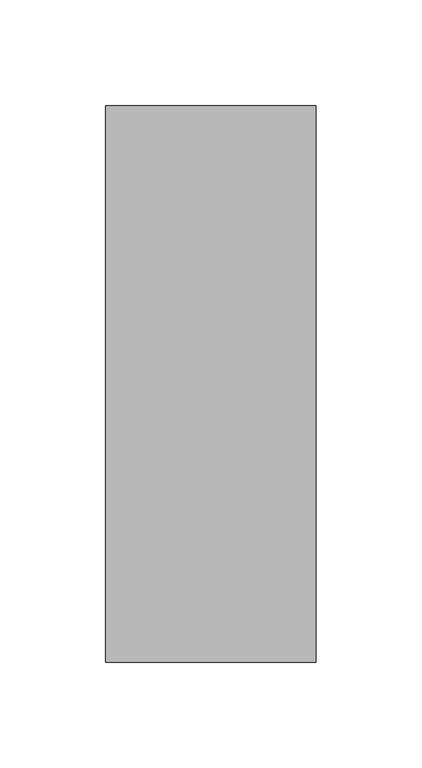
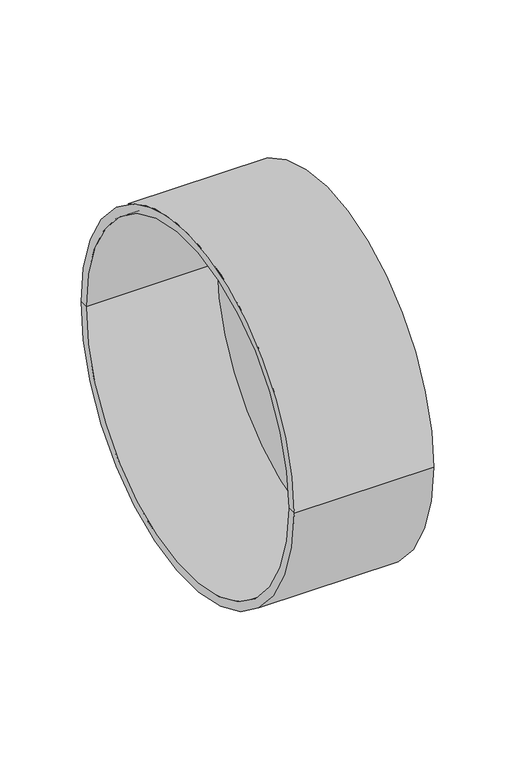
"""IFC4 building model written with IfcOpenShell, lengths in millimetres: pipe fitting geometry, pf_KGK_vicko : pf_KGK_vicko."""

from ifc_helpers import new_model, si_unit, frame, origin, place, context, project, spatial, polyline, circle_curve, source, transform, mapped, element, save
from ifc_brep_helpers import plane_surface, cylinder_surface, revolved_surface, advanced_brep


def pipe_fitting_46e281f1(model_context):
    return source(origin(), model_context, "Body", "AdvancedBrep", [
        advanced_brep(
        [(-93.0, -131.2, 0.0), (-93.0, 131.2, 0.0), (6.2, 131.2, 0.0), (6.2, -131.2, 0.0), (-93.0, -125.0, 0.0), (-93.0, 125.0, 0.0), (0.0, -125.0, 0.0), (0.0, 125.0, 0.0), (0.0, 0.0, 0.0), (6.2, 0.0, 0.0)],
        [
            (0, 1, circle_curve(frame((-93.0, 0.0, 0.0), z_axis=(1.0, 0.0, 0.0), x_axis=(0.0, 1.0, 0.0)), 131.2)),
            (1, 2),
            (2, 3, circle_curve(frame((6.2, 0.0, 0.0), z_axis=(-1.0, 0.0, 0.0), x_axis=(0.0, 1.0, 0.0)), 131.2)),
            (3, 0),
            (1, 0, circle_curve(frame((-93.0, 0.0, 0.0), z_axis=(1.0, 0.0, 0.0), x_axis=(0.0, 1.0, 0.0)), 131.2)),
            (3, 2, circle_curve(frame((6.2, 0.0, 0.0), z_axis=(-1.0, 0.0, 0.0), x_axis=(0.0, 1.0, 0.0)), 131.2)),
            (4, 5, circle_curve(frame((-93.0, 0.0, 0.0), z_axis=(1.0, 0.0, 0.0), x_axis=(0.0, 1.0, 0.0)), 125.0)),
            (5, 1),
            (0, 4),
            (5, 4, circle_curve(frame((-93.0, 0.0, 0.0), z_axis=(1.0, 0.0, 0.0), x_axis=(0.0, 1.0, 0.0)), 125.0)),
            (6, 7, circle_curve(frame((0.0, 0.0, 0.0), z_axis=(1.0, 0.0, 0.0), x_axis=(0.0, 1.0, 0.0)), 125.0)),
            (7, 5),
            (4, 6),
            (7, 6, circle_curve(frame((0.0, 0.0, 0.0), z_axis=(1.0, 0.0, 0.0), x_axis=(0.0, 1.0, 0.0)), 125.0)),
            (8, 7),
            (6, 8),
            (2, 9),
            (9, 3),
        ],
        [
            cylinder_surface(frame((-84.0241529, 0.0, 0.0), z_axis=(-1.0, 0.0, 0.0), x_axis=(0.0, 1.0, 0.0)), 131.2),
            plane_surface(frame((-93.0, 0.0, 0.0), z_axis=(-1.0, 0.0, 0.0), x_axis=(0.0, 1.0, 0.0))),
            revolved_surface(polyline([(-93.0, 125.0, 0.0), (0.0, 125.0, 0.0)]), (-84.0241529, 0.0, 0.0), (-1.0, 0.0, 0.0)),
            plane_surface(frame((0.0, 0.0, 0.0), z_axis=(-1.0, 0.0, 0.0), x_axis=(0.0, 1.0, 0.0))),
            plane_surface(frame((6.2, 0.0, 0.0), z_axis=(1.0, 0.0, 0.0), x_axis=(0.0, 1.0, 0.0))),
        ],
        [
            (0, [[1, 2, 3, 4]]),
            (0, [[5, -4, 6, -2]]),
            (1, [[7, 8, -1, 9]]),
            (1, [[10, -9, -5, -8]]),
            (2, [[11, 12, -7, 13]]),
            (2, [[14, -13, -10, -12]]),
            (3, [[15, -11, 16]]),
            (3, [[-16, -14, -15]]),
            (4, [[-3, 17, 18]]),
            (4, [[-6, -18, -17]]),
        ],
    ),
    ])


if __name__ == "__main__":
    model = new_model("IFC4")
    model_context = context("Model", 3, world=origin())
    ifc_project = project(units=[si_unit("LENGTHUNIT", "METRE", prefix="MILLI")], contexts=[model_context])
    site = spatial("IfcSite", under=ifc_project)
    building = spatial("IfcBuilding", under=site)
    placement = place(None, origin())
    pipe_fitting_shape = pipe_fitting_46e281f1(model_context)
    element("IfcPipeFitting", 1, ObjectType="pf_KGK_vicko : pf_KGK_vicko", at=placement, inside=building, context=model_context, shape_type="MappedRepresentation", body=[
        mapped(pipe_fitting_shape, transform((0.0, 0.0, 0.0), x_axis=(1.0, 0.0, 0.0), y_axis=(0.0, 1.0, 0.0), z_axis=(0.0, 0.0, 1.0))),
    ])
    save(model, "model.ifc")
